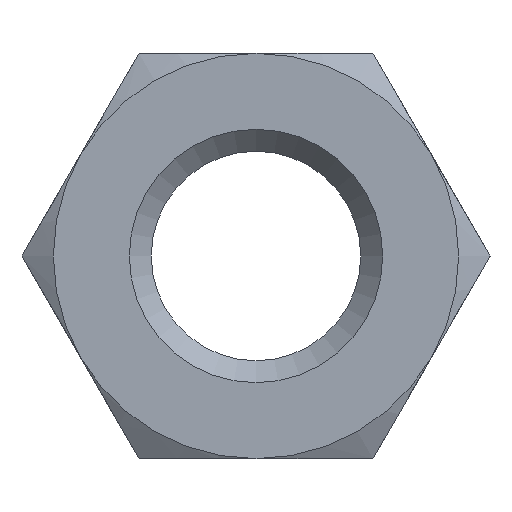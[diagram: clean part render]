
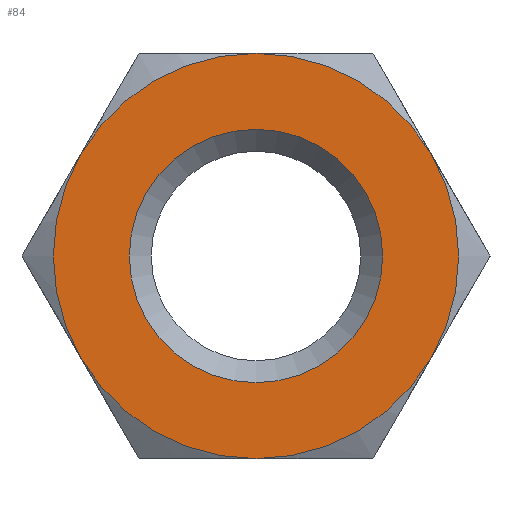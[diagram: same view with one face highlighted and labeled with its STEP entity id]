
A CAD part, left-side view. The second image highlights one B-rep face of the part: STEP entity #84.
In plain terms, the highlighted planar face has unit normal (-1, 0, 0).
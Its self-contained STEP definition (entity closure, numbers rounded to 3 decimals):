
#84 = ADVANCED_FACE( '', ( #118, #119 ), #120, .F. );
#118 = FACE_OUTER_BOUND( '', #169, .T. );
#119 = FACE_BOUND( '', #170, .T. );
#120 = PLANE( '', #171 );
#169 = EDGE_LOOP( '', ( #268, #269, #270, #271, #272, #273 ) );
#170 = EDGE_LOOP( '', ( #274 ) );
#171 = AXIS2_PLACEMENT_3D( '', #275, #276, #277 );
#268 = ORIENTED_EDGE( '', *, *, #391, .F. );
#269 = ORIENTED_EDGE( '', *, *, #392, .F. );
#270 = ORIENTED_EDGE( '', *, *, #393, .F. );
#271 = ORIENTED_EDGE( '', *, *, #389, .F. );
#272 = ORIENTED_EDGE( '', *, *, #387, .F. );
#273 = ORIENTED_EDGE( '', *, *, #388, .F. );
#274 = ORIENTED_EDGE( '', *, *, #394, .T. );
#275 = CARTESIAN_POINT( '', ( 0., 0., 0. ) );
#276 = DIRECTION( '', ( 1., 0., 0. ) );
#277 = DIRECTION( '', ( 0., 0., -1. ) );
#387 = EDGE_CURVE( '', #417, #435, #451, .T. );
#388 = EDGE_CURVE( '', #426, #417, #452, .T. );
#389 = EDGE_CURVE( '', #435, #453, #454, .T. );
#391 = EDGE_CURVE( '', #456, #426, #457, .T. );
#392 = EDGE_CURVE( '', #458, #456, #459, .T. );
#393 = EDGE_CURVE( '', #453, #458, #460, .T. );
#394 = EDGE_CURVE( '', #461, #461, #462, .T. );
#417 = VERTEX_POINT( '', #503 );
#426 = VERTEX_POINT( '', #531 );
#435 = VERTEX_POINT( '', #557 );
#451 = CIRCLE( '', #589, 4. );
#452 = CIRCLE( '', #590, 4. );
#453 = VERTEX_POINT( '', #591 );
#454 = CIRCLE( '', #592, 4. );
#456 = VERTEX_POINT( '', #599 );
#457 = CIRCLE( '', #600, 4. );
#458 = VERTEX_POINT( '', #601 );
#459 = CIRCLE( '', #602, 4. );
#460 = CIRCLE( '', #603, 4. );
#461 = VERTEX_POINT( '', #604 );
#462 = CIRCLE( '', #605, 2.5 );
#503 = CARTESIAN_POINT( '', ( 0., 0., 4. ) );
#531 = CARTESIAN_POINT( '', ( 0., 3.464, 2. ) );
#557 = CARTESIAN_POINT( '', ( 0., -3.464, 2. ) );
#589 = AXIS2_PLACEMENT_3D( '', #691, #692, #693 );
#590 = AXIS2_PLACEMENT_3D( '', #694, #695, #696 );
#591 = CARTESIAN_POINT( '', ( 0., -3.464, -2. ) );
#592 = AXIS2_PLACEMENT_3D( '', #697, #698, #699 );
#599 = CARTESIAN_POINT( '', ( 0., 3.464, -2. ) );
#600 = AXIS2_PLACEMENT_3D( '', #700, #701, #702 );
#601 = CARTESIAN_POINT( '', ( 0., 0., -4. ) );
#602 = AXIS2_PLACEMENT_3D( '', #703, #704, #705 );
#603 = AXIS2_PLACEMENT_3D( '', #706, #707, #708 );
#604 = CARTESIAN_POINT( '', ( 0., 2.5, 0. ) );
#605 = AXIS2_PLACEMENT_3D( '', #709, #710, #711 );
#691 = CARTESIAN_POINT( '', ( 0., 0., 0. ) );
#692 = DIRECTION( '', ( 1., 0., 0. ) );
#693 = DIRECTION( '', ( 0., 0., -1. ) );
#694 = CARTESIAN_POINT( '', ( 0., 0., 0. ) );
#695 = DIRECTION( '', ( 1., 0., 0. ) );
#696 = DIRECTION( '', ( 0., 0., -1. ) );
#697 = CARTESIAN_POINT( '', ( 0., 0., 0. ) );
#698 = DIRECTION( '', ( 1., 0., 0. ) );
#699 = DIRECTION( '', ( 0., 0., -1. ) );
#700 = CARTESIAN_POINT( '', ( 0., 0., 0. ) );
#701 = DIRECTION( '', ( 1., 0., 0. ) );
#702 = DIRECTION( '', ( 0., 0., -1. ) );
#703 = CARTESIAN_POINT( '', ( 0., 0., 0. ) );
#704 = DIRECTION( '', ( 1., 0., 0. ) );
#705 = DIRECTION( '', ( 0., 0., -1. ) );
#706 = CARTESIAN_POINT( '', ( 0., 0., 0. ) );
#707 = DIRECTION( '', ( 1., 0., 0. ) );
#708 = DIRECTION( '', ( 0., 0., -1. ) );
#709 = CARTESIAN_POINT( '', ( 0., 0., 0. ) );
#710 = DIRECTION( '', ( 1., 0., 0. ) );
#711 = DIRECTION( '', ( 0., 1., 0. ) );
